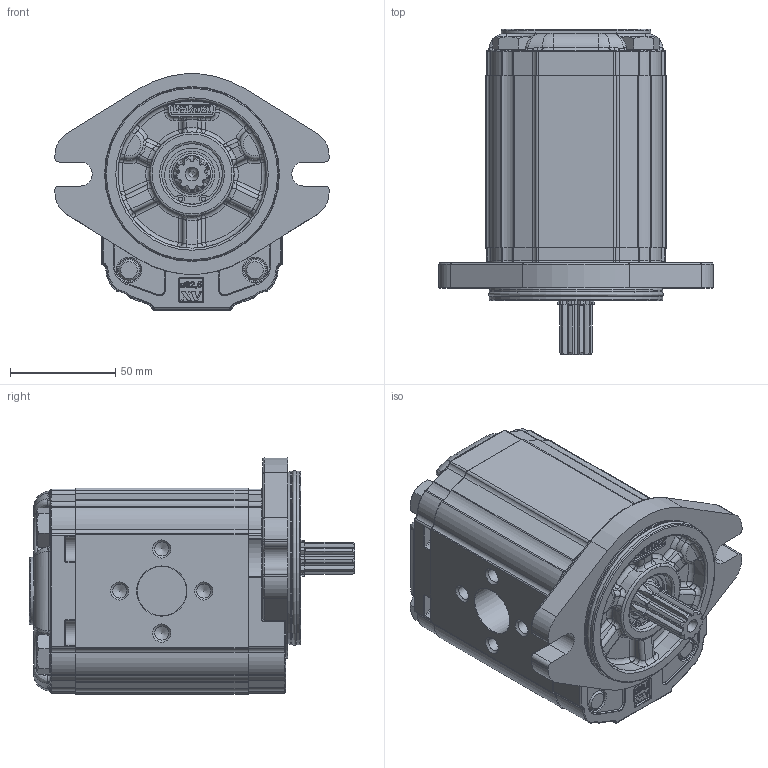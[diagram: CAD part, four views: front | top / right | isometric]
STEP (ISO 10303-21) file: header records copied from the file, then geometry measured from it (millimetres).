
FILE_DESCRIPTION(/* description */ ('Unknown'),/* implementation_level */ '2;1');
FILE_NAME(/* name */ 'X2R5731IQPE',/* time_stamp */ '2021-04-26T12:40:58+02:00',/* author */ ('Unknown'),/* organization */ ('Unknown'),/* preprocessor_version */ 'ST-DEVELOPER v16.7',/* originating_system */ 'Solid Edge',/* authorisation */ 'Unknown');
FILE_SCHEMA (('AUTOMOTIVE_DESIGN {1 0 10303 214 3 1 1}'));
Products named in the file (5): X2R5731IQPE; X2R31; 2I; X2QPH82; XR219-E
Assembly tree (4 placements, depth 2):
  X2R5731IQPE
    X2R31
    2I
    X2QPH82
    XR219-E
Bounding box: 130.38 x 154.7 x 112.3 mm (x, y, z)
Volume: 895559.6 mm3; surface area: 124692.6 mm2
Topology: 4 solids, 5 shells, 1569 faces, 3972 edges, 2480 vertices
Faces by surface type: plane 600, cylinder 443, bspline 210, torus 201, cone 89, sphere 26
Full cylindrical faces by diameter (mm): 2 x2, 6.647 x8, 11 x2, 11.445 x1, 11.5 x4, 16 x4, 17.42 x1, 17.48 x2, 18.724 x1, 20 x1, 20.595 x1, 21.741 x1, 23.5 x1, 25.834 x1, 28.56 x1, 28.57 x1, 28.8 x1, 30.4 x1, 79.6 x2, 82.5 x2
Entity records: 59389 total; most frequent: CARTESIAN_POINT 12975, ORIENTED_EDGE 7656, DIRECTION 7366, EDGE_CURVE 3828, AXIS2_PLACEMENT_3D 2727, VERTEX_POINT 2436, LINE 1912, VECTOR 1912
